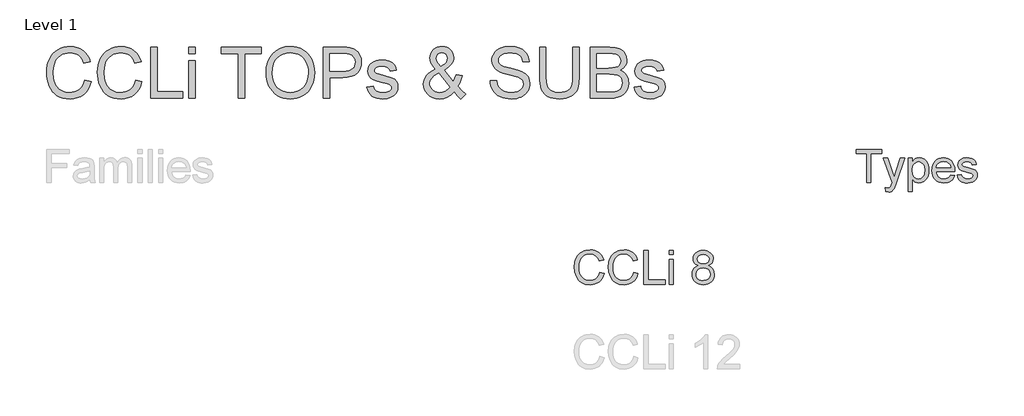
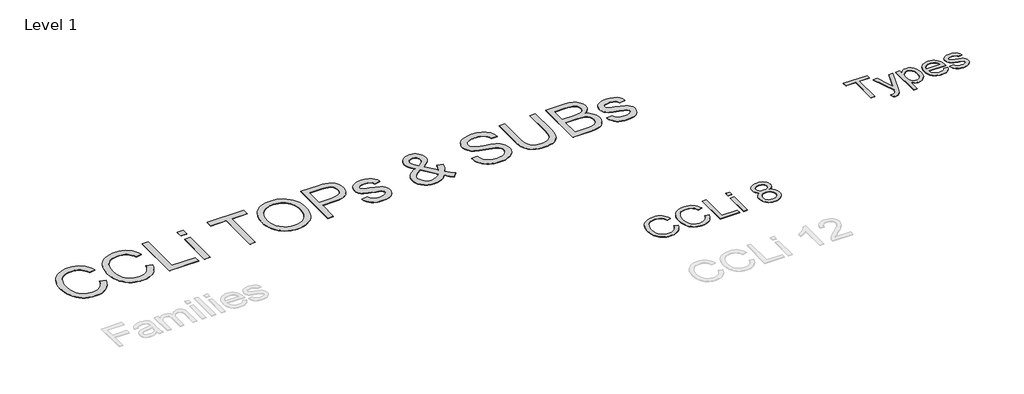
# One storey, part 30 of 31: 3 proxies.
"""IFC4 building model written with IfcOpenShell, lengths in millimetres."""

from ifc_helpers import new_model, si_unit, origin, origin_with_axes, place, context, project, spatial, polyline, outline, extrude, element, save

model = new_model("IFC4")

# Units and contexts
model_context = context("Model", 3, world=origin())
ifc_project = project(units=[si_unit("LENGTHUNIT", "METRE", prefix="MILLI")], contexts=[model_context])

# Site, building, storey
site = spatial("IfcSite", under=ifc_project)
building = spatial("IfcBuilding", under=site)
storey = spatial("IfcBuildingStorey", under=building, Name="Level 1", Elevation=0.0)

# Proxies
placement = place(None, origin())
element("IfcBuildingElementProxy", 1, Name="400mm Arial", ObjectType="400mm Arial", at=placement, inside=storey, context=model_context, shape_type="SweptSolid", body=[
    extrude(outline(polyline([(11266.8648917, 17351.3054836), (11266.8648917, 17694.0933624), (11138.3194371, 17694.0933624), (11138.3194371, 17743.0630593), (11444.3800432, 17743.0630593), (11444.3800432, 17694.0933624), (11315.8345887, 17694.0933624), (11315.8345887, 17351.3054836), (11266.8648917, 17351.3054836)])), origin_with_axes(), (0.0, 0.0, 1.0), 5.0),
    extrude(outline(polyline([(11493.3497402, 17241.1236654), (11487.2285281, 17288.2761275), (11512.0959523, 17283.9721502), (11525.175261, 17285.3231209), (11535.3374296, 17289.3760328), (11549.5883765, 17304.4399533), (11562.9785281, 17340.4977184), (11566.8042856, 17352.3575669), (11462.7436796, 17639.0024533), (11514.2957629, 17639.0024533), (11569.5779599, 17479.1814305), (11588.8023917, 17415.291279), (11608.0268235, 17471.8168472), (11664.7436796, 17639.0024533), (11715.9131871, 17639.0024533), (11615.7739826, 17344.4191199), (11589.7588311, 17280.5289684), (11576.4404125, 17260.1328983), (11561.3525811, 17246.0015063), (11543.8497402, 17237.7522165), (11523.2862932, 17235.0024533), (11493.3497402, 17241.1236654)])), origin_with_axes(), (0.0, 0.0, 1.0), 5.0),
    extrude(outline(polyline([(11756.5618614, 17241.1236654), (11756.5618614, 17639.0024533), (11805.5315584, 17639.0024533), (11805.5315584, 17590.9891957), (11821.5040962, 17614.6730262), (11839.3895129, 17631.590048), (11860.2398917, 17641.740261), (11885.1073159, 17645.1236654), (11918.22403, 17640.3892904), (11947.1802326, 17626.1861654), (11970.7564637, 17603.3750858), (11987.7332629, 17572.8168472), (11997.9910754, 17536.7351711), (12001.4103462, 17497.353779), (11997.5487222, 17455.4736891), (11985.96385, 17418.0171313), (11967.02635, 17386.885029), (11941.1068425, 17363.9783055), (11910.9192241, 17349.88278), (11879.1773917, 17345.1842715), (11856.6651995, 17348.328566), (11836.5680167, 17357.7614495), (11819.3640631, 17372.000441), (11805.5315584, 17389.5630593), (11805.5315584, 17241.1236654), (11756.5618614, 17241.1236654)]), holes=[polyline([(11805.5315584, 17492.8585139), (11810.8278415, 17448.9579457), (11817.4481954, 17431.9572355), (11826.7166909, 17418.2562411), (11850.1614116, 17400.1795366), (11863.578463, 17395.6603605), (11878.1253084, 17394.1539684), (11892.8813749, 17395.7141602), (11906.5435139, 17400.3947355), (11930.5860091, 17419.1170366), (11940.1474142, 17433.3141839), (11946.9769892, 17450.9425574), (11952.4406493, 17496.4929836), (11947.1084996, 17540.1544419), (11940.4433126, 17557.2866625), (11931.1120508, 17571.2865442), (11907.7031966, 17589.9371124), (11894.4385778, 17594.5997544), (11880.1338311, 17596.1539684), (11865.8739175, 17594.5011216), (11852.4568661, 17589.5425811), (11828.15135, 17569.7084192), (11818.2551912, 17554.9882191), (11811.1865063, 17537.2731682), (11806.9452953, 17516.5632665), (11805.5315584, 17492.8585139)])]), origin_with_axes(), (0.0, 0.0, 1.0), 5.0),
    extrude(outline(polyline([(12257.9273917, 17437.0024533), (12305.9406493, 17430.8812411), (12298.5790548, 17411.6508316), (12288.6410517, 17394.7039211), (12276.12664, 17380.0405096), (12261.0358197, 17367.6605972), (12243.5240122, 17357.8272047), (12223.7466389, 17350.8033529), (12177.3951947, 17345.1842715), (12147.0103107, 17347.6082475), (12119.9370981, 17354.8801758), (12096.1755569, 17367.0000563), (12075.7256871, 17383.9678889), (12059.2809073, 17405.3114317), (12047.534636, 17430.5584429), (12040.4868732, 17459.7089223), (12038.137619, 17492.7628699), (12040.5107842, 17526.937645), (12047.63028, 17557.0595082), (12059.4961062, 17583.1284594), (12076.1082629, 17605.1444987), (12096.504333, 17622.6353841), (12119.7218993, 17635.1288737), (12145.7609618, 17642.6249675), (12174.6215205, 17645.1236654), (12202.5525397, 17642.6309452), (12227.8115063, 17635.1527847), (12250.3984203, 17622.6891839), (12270.3132818, 17605.2401427), (12286.5697627, 17583.2719253), (12298.1815347, 17557.2507961), (12305.1485979, 17527.1767549), (12307.4709523, 17493.0498018), (12307.1840205, 17479.8509381), (12087.1073159, 17479.8509381), (12089.9437565, 17460.3096858), (12095.5837601, 17443.1953983), (12104.0273266, 17428.5080759), (12115.2744561, 17416.2477184), (12143.6926616, 17399.6774059), (12178.3516341, 17394.1539684), (12204.4146076, 17396.7124438), (12226.3648917, 17404.3878699), (12244.2024864, 17417.6584665), (12257.9273917, 17437.0024533)]), holes=[polyline([(12087.1073159, 17528.8206351), (12258.5012553, 17528.8206351), (12251.8779125, 17554.6923207), (12238.8942478, 17573.199423), (12225.5399627, 17583.2420366), (12210.3445318, 17590.4153321), (12174.4302326, 17596.1539684), (12141.421118, 17591.5750148), (12114.1267288, 17577.838154), (12095.1533623, 17556.4258671), (12087.1073159, 17528.8206351)])]), origin_with_axes(), (0.0, 0.0, 1.0), 5.0),
    extrude(outline(polyline([(12338.0770129, 17437.0024533), (12387.0467099, 17443.1236654), (12394.769958, 17422.1776427), (12409.7143235, 17406.7789684), (12431.9754504, 17397.3102184), (12461.6489826, 17394.1539684), (12490.96385, 17397.0471976), (12511.575119, 17405.7268851), (12523.7697212, 17418.3040631), (12527.8345887, 17432.8897639), (12523.7458103, 17445.371298), (12511.479475, 17454.8878699), (12461.075119, 17468.8518851), (12387.3336417, 17492.8106919), (12368.671118, 17504.8498728), (12355.1494561, 17520.7865442), (12346.9360328, 17539.6044893), (12344.198225, 17560.2874911), (12346.3980356, 17579.2608576), (12352.9974675, 17596.775654), (12363.3987459, 17612.1384618), (12377.0040962, 17624.6558624), (12408.1361985, 17639.1459192), (12450.2673538, 17645.1236654), (12482.1406966, 17642.7206114), (12509.8535281, 17635.5114495), (12532.1385659, 17624.2015536), (12547.7285281, 17609.496298), (12558.0580735, 17590.3077326), (12564.5618614, 17565.5479078), (12515.5921644, 17559.4266957), (12509.4111748, 17574.8373254), (12497.1807061, 17586.4461086), (12478.7812032, 17593.7270035), (12454.0931114, 17596.1539684), (12425.9737932, 17593.8346029), (12407.2275811, 17586.8765063), (12396.6828368, 17576.8338927), (12393.167922, 17565.260976), (12399.0022023, 17551.010029), (12417.2701947, 17540.2022639), (12459.449172, 17529.7770745), (12531.3255925, 17506.7268851), (12550.3109144, 17495.7039211), (12564.7053273, 17480.6160896), (12573.7795461, 17461.4155688), (12576.8042856, 17438.0545366), (12573.2535044, 17413.9044419), (12562.6011606, 17391.1890063), (12545.2537411, 17371.6895982), (12521.6177326, 17357.1875858), (12493.0680167, 17348.1851), (12460.979475, 17345.1842715), (12434.623592, 17346.630886), (12411.6032913, 17350.9707298), (12391.918573, 17358.2038027), (12375.5694371, 17368.3301048), (12362.2151521, 17381.3018141), (12351.5149864, 17397.0711086), (12343.46894, 17415.6379883), (12338.0770129, 17437.0024533)])), origin_with_axes(), (0.0, 0.0, 1.0), 5.0),
])
element("IfcBuildingElementProxy", 2, Name="400mm Arial", ObjectType="400mm Arial", at=placement, inside=storey, context=model_context, shape_type="SweptSolid", body=[
    extrude(outline(polyline([(8103.8257106, 16286.7361061), (8154.0538657, 16273.7866599), (8144.1149204, 16242.5504128), (8130.8773, 16215.2566344), (8114.3410043, 16191.9053248), (8094.5060334, 16172.4964839), (8071.819977, 16157.2385781), (8046.730425, 16146.340074), (8019.2373772, 16139.8009715), (7989.3408337, 16137.6212707), (7958.7115919, 16139.2706083), (7931.0805884, 16144.2186212), (7906.4478231, 16152.4653092), (7884.8132961, 16164.0106725), (7865.8796361, 16178.6830327), (7849.3494718, 16196.3107117), (7835.2228032, 16216.8937093), (7823.4996303, 16240.4320256), (7807.7174927, 16292.3033869), (7802.4567802, 16347.8535682), (7808.4042057, 16406.4449073), (7815.8384877, 16432.7423386), (7826.2464825, 16457.0409444), (7839.3951982, 16478.9391202), (7855.0516427, 16498.0352614), (7873.2158162, 16514.3293681), (7893.8877187, 16527.8214403), (7916.3653086, 16538.4011133), (7939.9465445, 16545.9580226), (7990.4199542, 16552.0035501), (8019.1484724, 16550.0476441), (8045.4918889, 16544.1799263), (8069.4502038, 16534.4003966), (8091.0234172, 16520.709055), (8109.8559096, 16503.4676522), (8125.592062, 16483.0379387), (8138.2318742, 16459.4199146), (8147.7753463, 16432.6135799), (8097.5471912, 16420.6451523), (8080.1341101, 16457.2739363), (8056.3444078, 16482.4002766), (8025.8837786, 16496.9316154), (7988.4579169, 16501.775395), (7945.3176216, 16496.4043179), (7926.6353476, 16489.6904715), (7909.8783227, 16480.2910865), (7882.9861489, 16455.127958), (7865.4872287, 16422.6071896), (7855.8855086, 16385.8435156), (7852.6849352, 16347.9516701), (7856.4741198, 16301.5494878), (7867.8416734, 16261.4258248), (7887.2167918, 16229.1135229), (7915.0286707, 16206.1454237), (7948.3710422, 16192.4234253), (7984.3376386, 16187.8494258), (8006.1745007, 16189.4067929), (8026.2639233, 16194.0788942), (8044.6059064, 16201.8657298), (8061.2004501, 16212.7672996), (8075.6551468, 16226.7345527), (8087.5775892, 16243.7184381), (8096.9677771, 16263.7189559), (8103.8257106, 16286.7361061)])), origin_with_axes(), (0.0, 0.0, 1.0), 5.0),
    extrude(outline(polyline([(8505.6509512, 16286.7361061), (8555.8791063, 16273.7866599), (8545.940161, 16242.5504128), (8532.7025406, 16215.2566344), (8516.1662449, 16191.9053248), (8496.331274, 16172.4964839), (8473.6452176, 16157.2385781), (8448.5556656, 16146.340074), (8421.0626178, 16139.8009715), (8391.1660743, 16137.6212707), (8360.5368325, 16139.2706083), (8332.905829, 16144.2186212), (8308.2730637, 16152.4653092), (8286.6385367, 16164.0106725), (8267.7048767, 16178.6830327), (8251.1747124, 16196.3107117), (8237.0480438, 16216.8937093), (8225.3248709, 16240.4320256), (8209.5427333, 16292.3033869), (8204.2820208, 16347.8535682), (8210.2294463, 16406.4449073), (8217.6637283, 16432.7423386), (8228.0717231, 16457.0409444), (8241.2204388, 16478.9391202), (8256.8768833, 16498.0352614), (8275.0410568, 16514.3293681), (8295.7129593, 16527.8214403), (8318.1905492, 16538.4011133), (8341.7717851, 16545.9580226), (8392.2451948, 16552.0035501), (8420.973713, 16550.0476441), (8447.3171295, 16544.1799263), (8471.2754444, 16534.4003966), (8492.8486578, 16520.709055), (8511.6811502, 16503.4676522), (8527.4173026, 16483.0379387), (8540.0571148, 16459.4199146), (8549.6005869, 16432.6135799), (8499.3724318, 16420.6451523), (8481.9593507, 16457.2739363), (8458.1696484, 16482.4002766), (8427.7090192, 16496.9316154), (8390.2831575, 16501.775395), (8347.1428622, 16496.4043179), (8328.4605882, 16489.6904715), (8311.7035633, 16480.2910865), (8284.8113895, 16455.127958), (8267.3124693, 16422.6071896), (8257.7107492, 16385.8435156), (8254.5101758, 16347.9516701), (8258.2993604, 16301.5494878), (8269.666914, 16261.4258248), (8289.0420324, 16229.1135229), (8316.8539113, 16206.1454237), (8350.1962828, 16192.4234253), (8386.1628792, 16187.8494258), (8407.9997413, 16189.4067929), (8428.0891639, 16194.0788942), (8446.431147, 16201.8657298), (8463.0256907, 16212.7672996), (8477.4803874, 16226.7345527), (8489.4028297, 16243.7184381), (8498.7930177, 16263.7189559), (8505.6509512, 16286.7361061)])), origin_with_axes(), (0.0, 0.0, 1.0), 5.0),
    extrude(outline(polyline([(8624.9428195, 16143.8997901), (8624.9428195, 16545.7250307), (8675.1709746, 16545.7250307), (8675.1709746, 16194.1279452), (8876.0835949, 16194.1279452), (8876.0835949, 16143.8997901), (8624.9428195, 16143.8997901)])), origin_with_axes(), (0.0, 0.0, 1.0), 5.0),
    extrude(outline(polyline([(8926.31175, 16143.8997901), (8926.31175, 16438.9902012), (8976.539905, 16438.9902012), (8976.539905, 16143.8997901), (8926.31175, 16143.8997901)])), origin_with_axes(), (0.0, 0.0, 1.0), 5.0),
    extrude(outline(polyline([(8926.31175, 16495.4968756), (8926.31175, 16545.7250307), (8976.539905, 16545.7250307), (8976.539905, 16495.4968756), (8926.31175, 16495.4968756)])), origin_with_axes(), (0.0, 0.0, 1.0), 5.0),
    extrude(outline(polyline([(9269.4720751, 16365.2175984), (9242.5799012, 16378.4613502), (9223.7075549, 16396.4139916), (9212.5607304, 16418.7076405), (9208.8451222, 16444.9744149), (9210.8684732, 16465.4593107), (9216.9385261, 16484.2396866), (9227.055281, 16501.3155425), (9241.2187378, 16516.6868785), (9258.7483149, 16529.3910701), (9278.9634305, 16538.4654927), (9301.8640847, 16543.9101462), (9327.4502775, 16545.7250307), (9353.1590976, 16543.8672266), (9376.2314301, 16538.2938144), (9396.6672749, 16529.004794), (9414.4666321, 16516.0001655), (9428.8876063, 16500.3283925), (9439.1883022, 16483.0379387), (9445.3687197, 16464.1288042), (9447.4288589, 16443.6009888), (9443.7623016, 16418.180343), (9432.76263, 16396.2668388), (9414.3072166, 16378.424562), (9388.273434, 16365.2175984), (9419.1877844, 16349.288308), (9441.6898997, 16325.8296994), (9455.4118982, 16295.9699442), (9459.9858976, 16260.8372136), (9457.717292, 16235.7844498), (9450.9114751, 16212.8163505), (9439.5684469, 16191.9329159), (9423.6882074, 16173.134146), (9404.1046226, 16157.597263), (9381.6515581, 16146.4994895), (9356.3290141, 16139.8408254), (9328.1369906, 16137.6212707), (9299.944967, 16139.8500225), (9274.622423, 16146.5362777), (9252.1693585, 16157.6800365), (9232.5857737, 16173.2812988), (9216.7055342, 16192.2118931), (9205.362506, 16213.343648), (9198.5566891, 16236.6765636), (9196.2880835, 16262.2106397), (9201.046024, 16298.7045337), (9215.3198454, 16328.7237045), (9238.3737837, 16351.2380826), (9269.4720751, 16365.2175984)]), holes=[polyline([(9246.5162386, 16263.9764733), (9248.6131659, 16244.7607704), (9254.903948, 16226.1582042), (9266.5167564, 16209.9346082), (9284.5797623, 16197.8558161), (9306.2112236, 16190.3510234), (9328.529398, 16187.8494258), (9362.7178981, 16193.1101383), (9376.6115748, 16199.686029), (9388.3715359, 16208.8922759), (9404.4111909, 16232.7923429), (9409.7577425, 16262.4068435), (9404.2395126, 16292.5241161), (9387.6848228, 16316.9514806), (9375.6060307, 16326.3937852), (9361.4425738, 16333.1382884), (9326.8616663, 16338.533891), (9293.1514128, 16333.2118648), (9279.414086, 16326.5593321), (9267.7552924, 16317.2457862), (9251.826002, 16293.2844056), (9246.5162386, 16263.9764733)]), polyline([(9259.0732773, 16443.502887), (9263.5246495, 16421.5771201), (9276.8787659, 16404.0659371), (9298.7432191, 16392.5880188), (9328.7256017, 16388.7620461), (9358.0090086, 16392.5634934), (9379.542368, 16403.9678352), (9392.7861198, 16420.890407), (9397.2007038, 16441.2465441), (9392.638967, 16462.3752333), (9378.9537568, 16479.8496281), (9357.1260918, 16491.5850637), (9328.1369906, 16495.4968756), (9298.9639483, 16491.6709029), (9277.1730715, 16480.1929846), (9263.5982259, 16463.3685147), (9259.0732773, 16443.502887)])]), origin_with_axes(), (0.0, 0.0, 1.0), 5.0),
])
element("IfcBuildingElementProxy", 3, Name="600mm Arial", ObjectType="600mm Arial", at=placement, inside=storey, context=model_context, shape_type="SweptSolid", body=[
    extrude(outline(polyline([(2002.9783305, 18565.5599576), (2078.3205631, 18546.1357882), (2063.4121452, 18499.2814176), (2043.5557146, 18458.3407501), (2018.751271, 18423.3137856), (1988.9988147, 18394.2005242), (1954.9697301, 18371.3136656), (1917.335402, 18354.9659094), (1876.0958304, 18345.1572557), (1831.2510151, 18341.8877045), (1785.3071525, 18344.3617109), (1743.8606472, 18351.7837302), (1706.9114993, 18364.1537623), (1674.4597088, 18381.4718072), (1646.0592188, 18403.4803475), (1621.2639723, 18429.9218659), (1600.0739694, 18460.7963624), (1582.48921, 18496.1038369), (1568.6798396, 18534.3175791), (1558.8160036, 18573.9108789), (1552.897702, 18614.8837361), (1550.9249348, 18657.2361508), (1553.1552194, 18702.6787742), (1559.8460732, 18745.1231594), (1570.9974962, 18784.5693063), (1586.6094884, 18821.017215), (1606.3325618, 18853.8644787), (1629.8172287, 18882.5086905), (1657.063489, 18906.9498506), (1688.0713426, 18927.1879588), (1721.7877275, 18943.0574684), (1757.1595813, 18954.3928324), (1794.1869041, 18961.1940508), (1832.8696959, 18963.4611235), (1875.9624731, 18960.5272646), (1915.4775979, 18951.7256879), (1951.4150703, 18937.0563933), (1983.7748903, 18916.519381), (2012.023629, 18890.6572767), (2035.6278576, 18860.0127065), (2054.5875759, 18824.5856704), (2068.902784, 18784.3761683), (1993.5605514, 18766.4235269), (1981.6963571, 18796.0518231), (1967.4409298, 18821.3667029), (1950.7942695, 18842.3681663), (1931.7563762, 18859.0562133), (1910.2168854, 18871.7711348), (1886.0654324, 18880.8532215), (1859.3020173, 18886.3024736), (1829.92664, 18888.1188909), (1796.1274817, 18886.104737), (1765.216197, 18880.0622752), (1737.192786, 18869.9915056), (1712.0572487, 18855.8924282), (1690.1268833, 18838.3996393), (1671.7189879, 18818.1477355), (1656.8335627, 18795.1367167), (1645.4706076, 18769.3665829), (1631.0680275, 18714.2210718), (1626.2671674, 18657.3833036), (1631.9509443, 18587.7800301), (1639.0556653, 18556.5100605), (1649.0022747, 18527.5945357), (1661.951721, 18501.6082712), (1678.0649524, 18479.1260828), (1697.3419689, 18460.1479704), (1719.7827706, 18444.6739339), (1744.2975071, 18432.6671853), (1769.7963278, 18424.0909363), (1796.279233, 18418.9451869), (1823.7462224, 18417.2299371), (1856.5015156, 18419.5659878), (1886.6356495, 18426.5741398), (1914.1486242, 18438.2543931), (1939.0404397, 18454.6067478), (1960.7224848, 18475.5576274), (1978.6061483, 18501.0334556), (1992.6914302, 18531.0342323), (2002.9783305, 18565.5599576)])), origin_with_axes(), (0.0, 0.0, 1.0), 5.0),
    extrude(outline(polyline([(2605.7161914, 18565.5599576), (2681.058424, 18546.1357882), (2666.1500061, 18499.2814176), (2646.2935755, 18458.3407501), (2621.4891319, 18423.3137856), (2591.7366756, 18394.2005242), (2557.707591, 18371.3136656), (2520.0732629, 18354.9659094), (2478.8336913, 18345.1572557), (2433.988876, 18341.8877045), (2388.0450134, 18344.3617109), (2346.5985081, 18351.7837302), (2309.6493602, 18364.1537623), (2277.1975697, 18381.4718072), (2248.7970797, 18403.4803475), (2224.0018332, 18429.9218659), (2202.8118303, 18460.7963624), (2185.2270709, 18496.1038369), (2171.4177005, 18534.3175791), (2161.5538645, 18573.9108789), (2155.6355629, 18614.8837361), (2153.6627957, 18657.2361508), (2155.8930803, 18702.6787742), (2162.5839341, 18745.1231594), (2173.7353571, 18784.5693063), (2189.3473492, 18821.017215), (2209.0704227, 18853.8644787), (2232.5550896, 18882.5086905), (2259.8013499, 18906.9498506), (2290.8092035, 18927.1879588), (2324.5255884, 18943.0574684), (2359.8974422, 18954.3928324), (2396.924765, 18961.1940508), (2435.6075568, 18963.4611235), (2478.700334, 18960.5272646), (2518.2154588, 18951.7256879), (2554.1529312, 18937.0563933), (2586.5127512, 18916.519381), (2614.7614899, 18890.6572767), (2638.3657185, 18860.0127065), (2657.3254368, 18824.5856704), (2671.6406449, 18784.3761683), (2596.2984123, 18766.4235269), (2584.434218, 18796.0518231), (2570.1787907, 18821.3667029), (2553.5321304, 18842.3681663), (2534.4942371, 18859.0562133), (2512.9547463, 18871.7711348), (2488.8032933, 18880.8532215), (2462.0398782, 18886.3024736), (2432.6645009, 18888.1188909), (2398.8653426, 18886.104737), (2367.9540579, 18880.0622752), (2339.9306469, 18869.9915056), (2314.7951096, 18855.8924282), (2292.8647442, 18838.3996393), (2274.4568488, 18818.1477355), (2259.5714236, 18795.1367167), (2248.2084685, 18769.3665829), (2233.8058884, 18714.2210718), (2229.0050283, 18657.3833036), (2234.6888052, 18587.7800301), (2241.7935262, 18556.5100605), (2251.7401356, 18527.5945357), (2264.6895819, 18501.6082712), (2280.8028132, 18479.1260828), (2300.0798298, 18460.1479704), (2322.5206315, 18444.6739339), (2347.035368, 18432.6671853), (2372.5341887, 18424.0909363), (2399.0170939, 18418.9451869), (2426.4840833, 18417.2299371), (2459.2393765, 18419.5659878), (2489.3735104, 18426.5741398), (2516.8864851, 18438.2543931), (2541.7783006, 18454.6067478), (2563.4603457, 18475.5576274), (2581.3440092, 18501.0334556), (2595.4292911, 18531.0342323), (2605.7161914, 18565.5599576)])), origin_with_axes(), (0.0, 0.0, 1.0), 5.0),
    extrude(outline(polyline([(2784.6539938, 18351.3054836), (2784.6539938, 18954.0433445), (2859.9962265, 18954.0433445), (2859.9962265, 18426.6477162), (3161.3651569, 18426.6477162), (3161.3651569, 18351.3054836), (2784.6539938, 18351.3054836)])), origin_with_axes(), (0.0, 0.0, 1.0), 5.0),
    extrude(outline(polyline([(3236.7073895, 18351.3054836), (3236.7073895, 18793.9411002), (3312.0496221, 18793.9411002), (3312.0496221, 18351.3054836), (3236.7073895, 18351.3054836)])), origin_with_axes(), (0.0, 0.0, 1.0), 5.0),
    extrude(outline(polyline([(3236.7073895, 18878.7011119), (3236.7073895, 18954.0433445), (3312.0496221, 18954.0433445), (3312.0496221, 18878.7011119), (3236.7073895, 18878.7011119)])), origin_with_axes(), (0.0, 0.0, 1.0), 5.0),
    extrude(outline(polyline([(3820.6096923, 18351.3054836), (3820.6096923, 18878.7011119), (3622.8363317, 18878.7011119), (3622.8363317, 18954.0433445), (4093.7252855, 18954.0433445), (4093.7252855, 18878.7011119), (3895.9519249, 18878.7011119), (3895.9519249, 18351.3054836), (3820.6096923, 18351.3054836)])), origin_with_axes(), (0.0, 0.0, 1.0), 5.0),
    extrude(outline(polyline([(4150.2319599, 18644.7281629), (4155.2535492, 18715.4258853), (4170.3183169, 18778.0118098), (4195.426263, 18832.4859362), (4211.7464281, 18856.6810752), (4230.5773877, 18878.8482647), (4273.6655664, 18915.8663904), (4322.5846747, 18942.3079088), (4377.3347126, 18958.1728199), (4437.9156802, 18963.4611235), (4478.4654731, 18960.9779201), (4516.9735209, 18953.5283097), (4553.4398237, 18941.1122923), (4587.8643814, 18923.7298681), (4619.2815038, 18901.9052687), (4646.7255006, 18876.1627261), (4670.1963719, 18846.5022402), (4689.6941177, 18812.9238111), (4705.0164028, 18776.1907939), (4715.9608921, 18737.0665437), (4722.5275857, 18695.5510606), (4724.7164836, 18651.6443444), (4722.4126226, 18607.1582142), (4715.5010396, 18565.081711), (4703.9817347, 18525.4148348), (4687.8547077, 18488.1575858), (4667.5016363, 18454.2940481), (4643.3041981, 18424.8083062), (4615.262393, 18399.70036), (4583.3762211, 18378.9702096), (4548.9010796, 18362.7466136), (4513.0923659, 18351.1583308), (4475.9500799, 18344.2053611), (4437.4742218, 18341.8877045), (4396.216256, 18344.4490829), (4357.2023704, 18352.1332181), (4320.432565, 18364.94011), (4285.9068398, 18382.8697588), (4254.5265056, 18405.227787), (4227.1928733, 18431.3198175), (4203.905943, 18461.1458503), (4184.6657147, 18494.7058853), (4169.600947, 18530.6525547), (4158.8403986, 18567.6384908), (4152.3840696, 18605.6636936), (4150.2319599, 18644.7281629)]), holes=[polyline([(4225.5741926, 18643.9923989), (4229.3403845, 18594.043221), (4240.6389603, 18549.7042436), (4259.4699199, 18510.9754665), (4285.8332634, 18477.8568899), (4317.8803837, 18451.3325981), (4353.7626738, 18432.3866753), (4393.4801337, 18421.0191217), (4437.0327634, 18417.2299371), (4481.3303541, 18421.0559099), (4521.5168636, 18432.5338281), (4557.5922917, 18451.6636919), (4589.5566386, 18478.4455011), (4615.726844, 18512.2630535), (4634.4198479, 18552.5001467), (4645.6356502, 18599.1567808), (4649.374251, 18652.2329556), (4647.7739643, 18686.7126956), (4642.9731043, 18718.9299614), (4634.9716709, 18748.8847528), (4623.7696641, 18776.57707), (4609.4912442, 18801.6436294), (4592.2605712, 18823.7211477), (4572.0776453, 18842.8096247), (4548.9424663, 18858.9090605), (4523.5724042, 18871.6883613), (4496.6848289, 18880.8164333), (4468.2797403, 18886.2932765), (4438.3571386, 18888.1188909), (4396.3174236, 18884.6010194), (4357.312735, 18874.0474046), (4321.3430729, 18856.4580467), (4288.4084373, 18831.8329457), (4260.9184552, 18798.985682), (4241.2827537, 18756.7298364), (4229.5013329, 18705.0654087), (4225.5741926, 18643.9923989)])]), origin_with_axes(), (0.0, 0.0, 1.0), 5.0),
    extrude(outline(polyline([(4828.3120534, 18351.3054836), (4828.3120534, 18954.0433445), (5051.6900009, 18954.0433445), (5103.708515, 18952.6086047), (5141.7475133, 18948.3043853), (5181.9018331, 18937.5806252), (5214.9560304, 18920.1246245), (5241.5722927, 18895.145437), (5262.4128078, 18861.8521165), (5275.8772888, 18822.5807135), (5280.3654491, 18779.6672788), (5277.3350212, 18742.6675471), (5268.2437374, 18708.6292655), (5253.0915977, 18677.5524339), (5231.8786022, 18649.4370525), (5202.7561437, 18626.1317281), (5163.8756154, 18609.4850678), (5115.2370171, 18599.4970716), (5056.8403489, 18596.1677396), (4903.6542861, 18596.1677396), (4903.6542861, 18351.3054836), (4828.3120534, 18351.3054836)]), holes=[polyline([(4903.6542861, 18671.5099722), (5061.2549328, 18671.5099722), (5097.4913093, 18673.2390176), (5128.0623031, 18678.4261537), (5152.9679142, 18687.0713806), (5172.2081425, 18699.1746982), (5186.5647374, 18714.4142099), (5196.819448, 18732.4680188), (5202.9722744, 18753.336125), (5205.0232165, 18777.0185284), (5200.1855683, 18810.8636719), (5185.6726236, 18839.4113148), (5163.2870042, 18860.8956233), (5134.8313318, 18873.5507639), (5105.7686542, 18877.4135249), (5059.4890992, 18878.7011119), (4903.6542861, 18878.7011119), (4903.6542861, 18671.5099722)])]), origin_with_axes(), (0.0, 0.0, 1.0), 5.0),
    extrude(outline(polyline([(5346.2899027, 18483.1543906), (5421.6321353, 18492.5721697), (5426.184675, 18475.3920805), (5433.5147237, 18460.3457069), (5443.6222815, 18447.4330489), (5456.5073484, 18436.6541065), (5472.2067126, 18428.1560324), (5490.7571622, 18422.0859794), (5536.4113178, 18417.2299371), (5581.5136504, 18421.6813092), (5599.0432274, 18427.2455244), (5613.2250784, 18435.0354257), (5631.9870601, 18454.3860186), (5636.6775556, 18465.2201434), (5638.241054, 18476.8268203), (5636.6683585, 18486.9987575), (5631.9502719, 18496.0302605), (5613.0779256, 18510.6719639), (5584.8613765, 18520.2368958), (5535.528401, 18532.1562724), (5466.7712561, 18552.0402942), (5422.0735937, 18569.0180483), (5393.3604039, 18587.5409068), (5372.5566771, 18612.0602418), (5359.9199306, 18641.0125548), (5355.7076817, 18672.8343474), (5359.0921961, 18702.0257837), (5369.2457392, 18728.9731398), (5385.2486059, 18752.609558), (5406.1810915, 18771.8681805), (5426.9848183, 18783.9898922), (5454.0793272, 18794.1618294), (5485.4044791, 18801.0596168), (5518.9001348, 18803.3588792), (5567.9388048, 18799.6616652), (5610.576328, 18788.570023), (5644.8629299, 18771.1692047), (5668.848836, 18748.544462), (5684.7413382, 18719.0219319), (5694.7477285, 18680.9277513), (5619.4054959, 18671.5099722), (5609.8957463, 18695.2199668), (5591.0785822, 18713.0806376), (5562.7700627, 18724.2826444), (5524.7862467, 18728.0166466), (5481.5233241, 18724.4481913), (5452.6813757, 18713.7428252), (5436.4577797, 18698.2917814), (5431.0499143, 18680.4862929), (5433.2939945, 18668.89801), (5440.026235, 18658.5605259), (5451.5409415, 18649.3266879), (5468.1324195, 18641.9322598), (5533.0268034, 18625.8926048), (5643.6121312, 18590.4287804), (5672.8219616, 18573.4694205), (5694.9684577, 18550.2560666), (5708.9295794, 18520.7151424), (5713.5832866, 18484.7730714), (5708.120239, 18447.6169899), (5691.7310961, 18412.6682004), (5665.0412574, 18382.6674237), (5628.6761222, 18360.3553807), (5584.7510119, 18346.5046235), (5535.3812482, 18341.8877045), (5494.8314553, 18344.1133906), (5459.4136162, 18350.7904488), (5429.1277309, 18361.9188791), (5403.9737995, 18377.4986816), (5383.4275901, 18397.4562799), (5366.9648708, 18421.7180974), (5354.5856417, 18450.2841344), (5346.2899027, 18483.1543906)])), origin_with_axes(), (0.0, 0.0, 1.0), 5.0),
    extrude(outline(polyline([(6379.4496979, 18425.7647994), (6341.1531822, 18389.0685704), (6299.5457286, 18362.8569782), (6254.5537606, 18347.1300229), (6206.1037018, 18341.8877045), (6162.1418034, 18345.7688595), (6122.9623709, 18357.4123247), (6088.5654043, 18376.8180999), (6058.9509037, 18403.9861853), (6039.7014783, 18430.0414276), (6025.9518887, 18457.586592), (6017.702135, 18486.6216784), (6014.9522171, 18517.146687), (6017.1641076, 18544.2136048), (6023.7997791, 18569.9377533), (6034.8592316, 18594.3191325), (6050.342465, 18617.3577425), (6070.2218883, 18639.0443861), (6094.4699103, 18659.3698663), (6123.086531, 18678.3341832), (6156.0717504, 18695.9373367), (6123.2014942, 18738.4644953), (6103.4646251, 18772.1624861), (6093.5869936, 18800.9308581), (6090.2944497, 18828.6691605), (6092.8880178, 18855.0003143), (6100.668722, 18879.5472404), (6113.6365623, 18902.3099389), (6131.7915388, 18923.2884097), (6153.8736555, 18940.863972), (6178.6229167, 18953.4179451), (6206.0393224, 18960.9503289), (6236.1228726, 18963.4611235), (6264.8452594, 18961.0606935), (6290.8269253, 18953.8594035), (6314.0678703, 18941.8572534), (6334.5680945, 18925.0542433), (6351.3067253, 18904.8851129), (6363.2628901, 18882.784602), (6370.436589, 18858.7527107), (6372.827822, 18832.7894389), (6371.0573899, 18811.4062979), (6365.7460936, 18790.8141032), (6356.8939331, 18771.0128548), (6344.5009084, 18752.0025527), (6309.0922663, 18716.3547874), (6259.5201675, 18683.8708072), (6368.5603909, 18548.0487746), (6387.1384316, 18586.8603251), (6401.0811592, 18631.4844111), (6476.4233918, 18615.1504505), (6453.2468261, 18545.363236), (6439.0649752, 18516.2913614), (6423.1540789, 18491.1006417), (6465.9755432, 18441.1422668), (6514.0945081, 18399.8659069), (6457.5878337, 18341.8877045), (6419.1441652, 18377.0572232), (6379.4496979, 18425.7647994)]), holes=[polyline([(6221.4075928, 18731.401161), (6260.8077545, 18756.3987426), (6283.3589208, 18778.1221744), (6293.9539222, 18799.256995), (6297.4855894, 18822.488743), (6292.8318821, 18848.8106997), (6278.8707604, 18869.7983676), (6257.9198808, 18883.5387601), (6232.2968998, 18888.1188909), (6206.1220959, 18883.5755483), (6184.6929697, 18869.9455204), (6170.4007542, 18849.7671929), (6165.6366823, 18825.5789518), (6172.1114054, 18797.9878021), (6191.6827276, 18767.3064437), (6221.4075928, 18731.401161)]), polyline([(6328.9762882, 18480.0641819), (6194.4786307, 18647.9655245), (6143.1039101, 18615.1872387), (6111.7051818, 18584.8369741), (6095.6471327, 18555.8478729), (6090.2944497, 18527.1530773), (6092.1246626, 18509.5499238), (6097.6153014, 18491.6156765), (6119.5778565, 18454.7539006), (6135.7462702, 18438.3371666), (6154.9681045, 18426.610928), (6177.2433593, 18419.5751848), (6202.5720346, 18417.2299371), (6236.6563015, 18421.6077329), (6271.8074261, 18434.7411201), (6303.9419184, 18454.827477), (6328.9762882, 18480.0641819)])]), origin_with_axes(), (0.0, 0.0, 1.0), 5.0),
    extrude(outline(polyline([(6806.0456595, 18558.4966233), (6881.3878921, 18558.4966233), (6890.033119, 18516.6868345), (6905.6681038, 18483.0808142), (6930.0586801, 18456.4093696), (6964.9706814, 18435.4033077), (7007.6449929, 18421.7732797), (7055.3224995, 18417.2299371), (7097.2978351, 18420.6696338), (7134.0492464, 18430.9887237), (7163.8292939, 18447.3226843), (7184.8905382, 18468.8069928), (7197.4169201, 18493.4734806), (7201.5923807, 18519.353979), (7198.4653838, 18544.5722897), (7189.0843929, 18566.369298), (7170.0281055, 18584.9657328), (7137.8752192, 18600.5823235), (7028.1728082, 18629.3506955), (6956.1599077, 18648.3885888), (6910.0826878, 18666.506777), (6872.5771183, 18691.8538465), (6845.9976442, 18722.5719931), (6830.1603243, 18757.9990292), (6824.8812177, 18797.4727673), (6826.513694, 18819.9089705), (6831.4111231, 18841.6002126), (6839.5735049, 18862.5464937), (6851.0008393, 18882.7478138), (6865.5643678, 18901.3810369), (6883.1353316, 18917.6230269), (6903.7137307, 18931.4737841), (6927.2995651, 18942.9333082), (6980.3113606, 18958.3291697), (7038.9885389, 18963.4611235), (7102.5585476, 18958.0900464), (7158.1823053, 18941.976815), (7182.5176993, 18929.9746649), (7203.8732491, 18915.4525232), (7222.2489548, 18898.4103897), (7237.6448163, 18878.8482647), (7249.941272, 18857.336365), (7259.0187602, 18834.4449078), (7264.877281, 18810.1738932), (7267.5168343, 18784.5233211), (7192.1746017, 18784.5233211), (7187.1346183, 18808.5644095), (7178.3422386, 18829.4785009), (7165.7974626, 18847.2655954), (7149.5002902, 18861.9256929), (7129.1472188, 18873.385217), (7104.4347458, 18881.5705914), (7075.3628711, 18886.4818161), (7041.9315948, 18888.1188909), (7007.4334607, 18886.5002102), (6977.9569159, 18881.6441678), (6953.5019602, 18873.5507639), (6934.0685938, 18862.2199985), (6919.2613435, 18848.5991676), (6908.6847362, 18833.6355674), (6902.3387718, 18817.329198), (6900.2234503, 18799.6800593), (6901.7225694, 18784.4957299), (6906.2199268, 18770.7277463), (6913.7155225, 18758.3761083), (6924.2093564, 18747.440816), (6940.727258, 18737.0849378), (6966.736515, 18726.6186951), (7047.2290956, 18705.3551157), (7130.2968501, 18685.1583942), (7180.5495306, 18667.5368466), (7223.4997535, 18640.2032144), (7240.1050271, 18624.1359682), (7253.4637421, 18606.4684354), (7263.7322482, 18587.2925864), (7271.0668955, 18566.7003917), (7276.9346133, 18521.2669653), (7275.2469547, 18497.699525), (7270.1839787, 18474.8218635), (7261.7456855, 18452.6339806), (7249.9320749, 18431.1358765), (7234.9500806, 18411.1598842), (7217.0066363, 18393.5383366), (7196.101742, 18378.2712338), (7172.2353975, 18365.3585758), (7146.1019803, 18355.0900696), (7118.3958675, 18347.7554223), (7058.2655554, 18341.8877045), (7019.7253179, 18343.4695971), (6984.4500331, 18348.2152748), (6952.439701, 18356.1247377), (6923.6943216, 18367.1979858), (6898.0391509, 18381.4534131), (6875.2994451, 18398.9094137), (6855.4752041, 18419.5659878), (6838.5664279, 18443.4231352), (6824.945597, 18469.7083037), (6814.985192, 18497.6489413), (6808.6852128, 18527.2450478), (6806.0456595, 18558.4966233)])), origin_with_axes(), (0.0, 0.0, 1.0), 5.0),
    extrude(outline(polyline([(7785.4946835, 18954.0433445), (7860.8369161, 18954.0433445), (7860.8369161, 18606.3212826), (7855.7233564, 18524.890603), (7849.3314067, 18491.1972108), (7840.3826772, 18462.1851169), (7828.1046156, 18436.755274), (7811.7246697, 18413.8086346), (7791.2428397, 18393.3451986), (7766.6591253, 18375.3649661), (7737.9459356, 18360.7186641), (7705.0756793, 18350.2570199), (7668.0483565, 18343.9800333), (7626.8639672, 18341.8877045), (7586.6958518, 18343.7087204), (7550.3629063, 18349.171768), (7517.8651305, 18358.2768474), (7489.2025246, 18371.0239585), (7464.3704899, 18387.2245619), (7443.364428, 18406.6901179), (7426.1843388, 18429.4206267), (7412.8302224, 18455.4160882), (7402.8192336, 18485.5686162), (7395.6685273, 18520.7703247), (7391.3781035, 18561.0212134), (7389.9479623, 18606.3212826), (7389.9479623, 18954.0433445), (7465.2901949, 18954.0433445), (7465.2901949, 18608.970033), (7469.005803, 18541.2613518), (7480.1526275, 18494.1172741), (7488.917416, 18476.7394484), (7500.349349, 18461.467747), (7514.4484265, 18448.3021701), (7531.2146484, 18437.2427176), (7571.4609387, 18422.2331322), (7619.8006329, 18417.2299371), (7661.3253131, 18419.7039435), (7696.4304524, 18427.1259628), (7725.116051, 18439.4959949), (7747.3821088, 18456.8140398), (7764.0563602, 18481.1678279), (7775.9665398, 18514.6450894), (7783.1126476, 18557.2458245), (7785.4946835, 18608.970033), (7785.4946835, 18954.0433445)])), origin_with_axes(), (0.0, 0.0, 1.0), 5.0),
    extrude(outline(polyline([(7992.6858232, 18351.3054836), (7992.6858232, 18954.0433445), (8222.6856465, 18954.0433445), (8285.9429556, 18949.6103664), (8335.3311135, 18936.3114323), (8355.4082734, 18926.2544583), (8373.1861708, 18913.8154483), (8388.6648057, 18898.9944024), (8401.8441782, 18881.7913206), (8419.8887901, 18844.1202043), (8425.9036607, 18804.6832544), (8420.8452832, 18768.3916956), (8405.6701509, 18734.2706406), (8380.2678992, 18704.4170166), (8344.5281633, 18680.9277513), (8367.2678692, 18671.2340607), (8387.2208689, 18658.6341023), (8404.3871625, 18643.1278762), (8418.76675, 18624.7153824), (8430.1297051, 18603.9576408), (8438.2461016, 18581.4156716), (8443.1159395, 18557.0894746), (8444.7392188, 18530.97905), (8440.3062408, 18488.9485321), (8427.0073067, 18449.9714347), (8407.160073, 18416.8252669), (8383.0821964, 18392.2875378), (8353.5964545, 18374.5188375), (8317.5256249, 18361.6797558), (8273.6924852, 18353.8990516), (8220.919813, 18351.3054836), (7992.6858232, 18351.3054836)]), holes=[polyline([(8068.0280558, 18709.1810885), (8205.615922, 18709.1810885), (8253.7348869, 18710.7997693), (8285.9613497, 18715.6558116), (8314.0859282, 18726.8210301), (8334.3010439, 18743.5412668), (8346.496332, 18765.5590042), (8350.5614281, 18792.616725), (8346.7722435, 18818.8834994), (8335.4046899, 18841.7657595), (8316.9738019, 18859.6264304), (8291.9946144, 18870.8284372), (8253.6613105, 18876.7329432), (8195.1680733, 18878.7011119), (8068.0280558, 18878.7011119), (8068.0280558, 18709.1810885)]), polyline([(8068.0280558, 18426.6477162), (8222.5384937, 18426.6477162), (8278.456557, 18429.5907721), (8304.4106318, 18436.1206776), (8325.7661816, 18445.9983091), (8343.1302118, 18460.1433718), (8357.1097276, 18479.4755707), (8366.3251716, 18503.130383), (8369.3969862, 18530.243286), (8365.7917427, 18561.7339848), (8354.976012, 18588.8100997), (8336.0852716, 18609.9817085), (8308.2549986, 18623.7588892), (8268.8364428, 18631.3188642), (8215.1808538, 18633.8388559), (8068.0280558, 18633.8388559), (8068.0280558, 18426.6477162)])]), origin_with_axes(), (0.0, 0.0, 1.0), 5.0),
    extrude(outline(polyline([(8510.6636724, 18483.1543906), (8586.005905, 18492.5721697), (8590.5584447, 18475.3920805), (8597.8884934, 18460.3457069), (8607.9960512, 18447.4330489), (8620.8811181, 18436.6541065), (8636.5804823, 18428.1560324), (8655.1309319, 18422.0859794), (8700.7850875, 18417.2299371), (8745.8874201, 18421.6813092), (8763.4169972, 18427.2455244), (8777.5988481, 18435.0354257), (8796.3608298, 18454.3860186), (8801.0513253, 18465.2201434), (8802.6148237, 18476.8268203), (8801.0421282, 18486.9987575), (8796.3240416, 18496.0302605), (8777.4516953, 18510.6719639), (8749.2351462, 18520.2368958), (8699.9021707, 18532.1562724), (8631.1450258, 18552.0402942), (8586.4473634, 18569.0180483), (8557.7341737, 18587.5409068), (8536.9304468, 18612.0602418), (8524.2937003, 18641.0125548), (8520.0814514, 18672.8343474), (8523.4659658, 18702.0257837), (8533.6195089, 18728.9731398), (8549.6223757, 18752.609558), (8570.5548612, 18771.8681805), (8591.358588, 18783.9898922), (8618.453097, 18794.1618294), (8649.7782488, 18801.0596168), (8683.2739045, 18803.3588792), (8732.3125745, 18799.6616652), (8774.9500977, 18788.570023), (8809.2366997, 18771.1692047), (8833.2226057, 18748.544462), (8849.1151079, 18719.0219319), (8859.1214982, 18680.9277513), (8783.7792656, 18671.5099722), (8774.269516, 18695.2199668), (8755.452352, 18713.0806376), (8727.1438324, 18724.2826444), (8689.1600164, 18728.0166466), (8645.8970938, 18724.4481913), (8617.0551454, 18713.7428252), (8600.8315494, 18698.2917814), (8595.4236841, 18680.4862929), (8597.6677642, 18668.89801), (8604.4000047, 18658.5605259), (8615.9147112, 18649.3266879), (8632.5061892, 18641.9322598), (8697.4005731, 18625.8926048), (8807.9859009, 18590.4287804), (8837.1957313, 18573.4694205), (8859.3422274, 18550.2560666), (8873.3033491, 18520.7151424), (8877.9570564, 18484.7730714), (8872.4940087, 18447.6169899), (8856.1048658, 18412.6682004), (8829.4150271, 18382.6674237), (8793.0498919, 18360.3553807), (8749.1247816, 18346.5046235), (8699.7550179, 18341.8877045), (8659.205225, 18344.1133906), (8623.7873859, 18350.7904488), (8593.5015006, 18361.9188791), (8568.3475692, 18377.4986816), (8547.8013598, 18397.4562799), (8531.3386405, 18421.7180974), (8518.9594114, 18450.2841344), (8510.6636724, 18483.1543906)])), origin_with_axes(), (0.0, 0.0, 1.0), 5.0),
])

save(model, "model.ifc")
